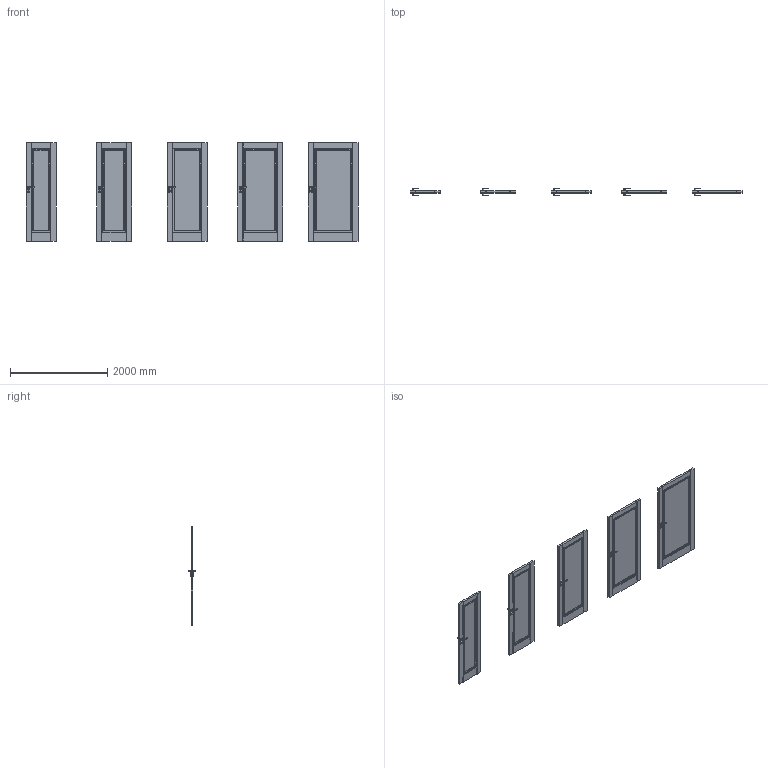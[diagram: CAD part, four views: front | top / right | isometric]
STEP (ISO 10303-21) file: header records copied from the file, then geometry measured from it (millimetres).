
FILE_DESCRIPTION(/* description */ (''),/* implementation_level */ '2;1');
FILE_NAME(/* name */ '050211_A_2-Skrzydło SEVILLA model pełne_ polska norma _PN__ bezprzylgowe..stp',/* time_stamp */ '2025-01-09T10:36:48+01:00',/* author */ (''),/* organization */ (''),/* preprocessor_version */ 'ST-DEVELOPER v16',/* originating_system */ 'SIEMENS PLM Software NX 11.0',/* authorisation */ '');
FILE_SCHEMA (('AUTOMOTIVE_DESIGN { 1 0 10303 214 3 1 1 1 }'));
Products named in the file (1): bkni41204493t9j0
Bounding box: 6818 x 153.13 x 2017 mm (x, y, z)
Volume: 211072737.2 mm3; surface area: 34147862.2 mm2
Topology: 41 solids, 41 shells, 2028 faces, 4970 edges, 2903 vertices
Faces by surface type: plane 1019, cylinder 709, bspline 160, sphere 140
Entity records: 64482 total; most frequent: CARTESIAN_POINT 18715, ORIENTED_EDGE 9660, DIRECTION 8966, EDGE_CURVE 4830, LINE 3112, VECTOR 3112, AXIS2_PLACEMENT_3D 2927, VERTEX_POINT 2903
